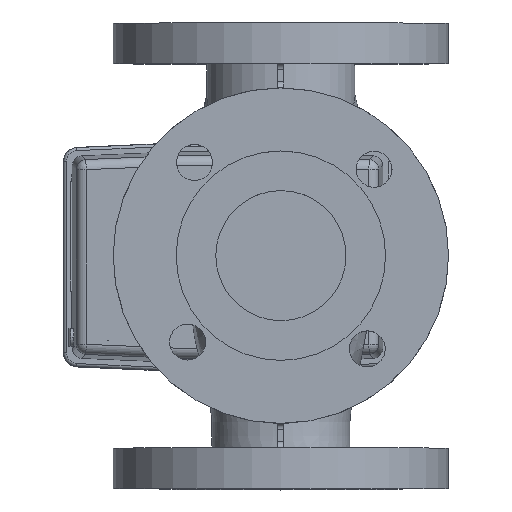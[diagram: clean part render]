
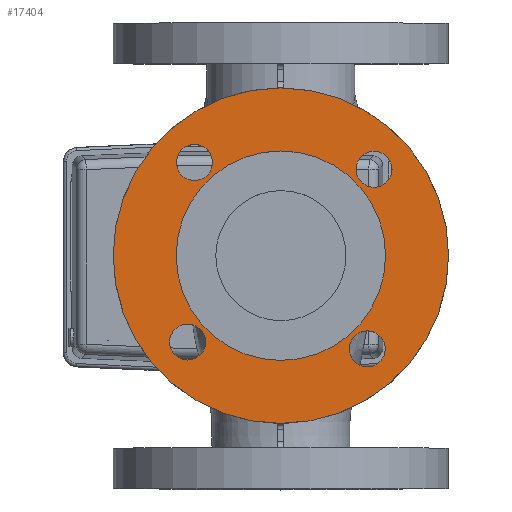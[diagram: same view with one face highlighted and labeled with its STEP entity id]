
A CAD part, top view. The second image highlights one B-rep face of the part: STEP entity #17404.
In plain terms, the highlighted planar face has unit normal (0, 0, 1).
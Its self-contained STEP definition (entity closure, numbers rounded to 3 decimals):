
#287 = CARTESIAN_POINT ( 'NONE',  ( -50.577, 45.897, 317.5 ) ) ;
#318 = DIRECTION ( 'NONE',  ( 0., 0., -1. ) ) ;
#381 = CARTESIAN_POINT ( 'NONE',  ( -41.727, 45.897, 317.5 ) ) ;
#534 = DIRECTION ( 'NONE',  ( 0., 0., -1. ) ) ;
#591 = DIRECTION ( 'NONE',  ( 1., 0., 0. ) ) ;
#693 = EDGE_CURVE ( 'NONE', #9374, #11646, #11549, .T. ) ;
#796 = CARTESIAN_POINT ( 'NONE',  ( -32.877, 45.897, 317.5 ) ) ;
#1407 = CARTESIAN_POINT ( 'NONE',  ( 43.238, -45.787, 317.5 ) ) ;
#1482 = DIRECTION ( 'NONE',  ( 0., 0., -1. ) ) ;
#1691 = AXIS2_PLACEMENT_3D ( 'NONE', #19468, #9903, #16004 ) ;
#1869 = AXIS2_PLACEMENT_3D ( 'NONE', #3132, #17171, #14110 ) ;
#2393 = CARTESIAN_POINT ( 'NONE',  ( -36.237, -42.428, 317.5 ) ) ;
#2857 = AXIS2_PLACEMENT_3D ( 'NONE', #12699, #318, #11467 ) ;
#2943 = ORIENTED_EDGE ( 'NONE', *, *, #8689, .T. ) ;
#3132 = CARTESIAN_POINT ( 'NONE',  ( 46.597, 42.537, 317.5 ) ) ;
#3397 = VERTEX_POINT ( 'NONE', #16111 ) ;
#3408 = CARTESIAN_POINT ( 'NONE',  ( 52.088, -45.787, 317.5 ) ) ;
#3452 = FACE_BOUND ( 'NONE', #9740, .T. ) ;
#3480 = CARTESIAN_POINT ( 'NONE',  ( 55.447, 42.537, 317.5 ) ) ;
#3554 = FACE_BOUND ( 'NONE', #18639, .T. ) ;
#3693 = DIRECTION ( 'NONE',  ( 0., 0., -1. ) ) ;
#3898 = ORIENTED_EDGE ( 'NONE', *, *, #14528, .T. ) ;
#3998 = ORIENTED_EDGE ( 'NONE', *, *, #11959, .F. ) ;
#4054 = CARTESIAN_POINT ( 'NONE',  ( 83.255, 0.055, 317.5 ) ) ;
#4139 = CIRCLE ( 'NONE', #14851, 51.5 ) ;
#4223 = ORIENTED_EDGE ( 'NONE', *, *, #693, .T. ) ;
#4298 = CIRCLE ( 'NONE', #15674, 8.85 ) ;
#4334 = VERTEX_POINT ( 'NONE', #7185 ) ;
#4414 = DIRECTION ( 'NONE',  ( 1., 0., 0. ) ) ;
#4616 = AXIS2_PLACEMENT_3D ( 'NONE', #13272, #8204, #591 ) ;
#4835 = CIRCLE ( 'NONE', #5159, 51.5 ) ;
#4957 = CIRCLE ( 'NONE', #4616, 82.5 ) ;
#5010 = DIRECTION ( 'NONE',  ( 1., 0., 0. ) ) ;
#5159 = AXIS2_PLACEMENT_3D ( 'NONE', #12191, #13700, #9039 ) ;
#5248 = ORIENTED_EDGE ( 'NONE', *, *, #10914, .T. ) ;
#5884 = CARTESIAN_POINT ( 'NONE',  ( 34.388, -45.787, 317.5 ) ) ;
#6209 = EDGE_LOOP ( 'NONE', ( #9402, #5248 ) ) ;
#6278 = DIRECTION ( 'NONE',  ( 0., 0., -1. ) ) ;
#6528 = CARTESIAN_POINT ( 'NONE',  ( 46.597, 42.537, 317.5 ) ) ;
#6539 = CARTESIAN_POINT ( 'NONE',  ( -53.937, -42.428, 317.5 ) ) ;
#6805 = CARTESIAN_POINT ( 'NONE',  ( -45.087, -42.428, 317.5 ) ) ;
#6973 = EDGE_CURVE ( 'NONE', #19956, #16802, #17675, .T. ) ;
#7165 = DIRECTION ( 'NONE',  ( 0., 0., -1. ) ) ;
#7185 = CARTESIAN_POINT ( 'NONE',  ( 37.747, 42.537, 317.5 ) ) ;
#7216 = EDGE_LOOP ( 'NONE', ( #12063, #3998 ) ) ;
#7226 = VERTEX_POINT ( 'NONE', #14205 ) ;
#7456 = EDGE_CURVE ( 'NONE', #3397, #17408, #4957, .T. ) ;
#7660 = DIRECTION ( 'NONE',  ( 0., 0., -1. ) ) ;
#8028 = CIRCLE ( 'NONE', #19391, 8.85 ) ;
#8204 = DIRECTION ( 'NONE',  ( 0., 0., -1. ) ) ;
#8244 = PLANE ( 'NONE',  #14547 ) ;
#8420 = EDGE_CURVE ( 'NONE', #11646, #9374, #4298, .T. ) ;
#8600 = CIRCLE ( 'NONE', #11222, 8.85 ) ;
#8615 = EDGE_LOOP ( 'NONE', ( #4223, #11957 ) ) ;
#8689 = EDGE_CURVE ( 'NONE', #15904, #11228, #11464, .T. ) ;
#8983 = CIRCLE ( 'NONE', #20038, 82.5 ) ;
#9039 = DIRECTION ( 'NONE',  ( 1., 0., 0. ) ) ;
#9203 = CARTESIAN_POINT ( 'NONE',  ( 43.238, -45.787, 317.5 ) ) ;
#9374 = VERTEX_POINT ( 'NONE', #5884 ) ;
#9402 = ORIENTED_EDGE ( 'NONE', *, *, #18799, .T. ) ;
#9561 = AXIS2_PLACEMENT_3D ( 'NONE', #6805, #9851, #13197 ) ;
#9740 = EDGE_LOOP ( 'NONE', ( #17803, #12140 ) ) ;
#9770 = FACE_BOUND ( 'NONE', #8615, .T. ) ;
#9851 = DIRECTION ( 'NONE',  ( 0., 0., -1. ) ) ;
#9903 = DIRECTION ( 'NONE',  ( 0., 0., -1. ) ) ;
#10707 = EDGE_CURVE ( 'NONE', #7226, #14920, #4835, .T. ) ;
#10762 = DIRECTION ( 'NONE',  ( 1., 0., 0. ) ) ;
#10859 = EDGE_LOOP ( 'NONE', ( #20014, #18811 ) ) ;
#10914 = EDGE_CURVE ( 'NONE', #16833, #4334, #18421, .T. ) ;
#11222 = AXIS2_PLACEMENT_3D ( 'NONE', #6528, #18948, #5010 ) ;
#11228 = VERTEX_POINT ( 'NONE', #796 ) ;
#11256 = DIRECTION ( 'NONE',  ( 1., 0., 0. ) ) ;
#11464 = CIRCLE ( 'NONE', #1691, 8.85 ) ;
#11467 = DIRECTION ( 'NONE',  ( 1., 0., 0. ) ) ;
#11549 = CIRCLE ( 'NONE', #16095, 8.85 ) ;
#11646 = VERTEX_POINT ( 'NONE', #3408 ) ;
#11957 = ORIENTED_EDGE ( 'NONE', *, *, #8420, .T. ) ;
#11959 = EDGE_CURVE ( 'NONE', #17408, #3397, #8983, .T. ) ;
#12063 = ORIENTED_EDGE ( 'NONE', *, *, #7456, .F. ) ;
#12140 = ORIENTED_EDGE ( 'NONE', *, *, #10707, .T. ) ;
#12191 = CARTESIAN_POINT ( 'NONE',  ( 0.755, 0.055, 317.5 ) ) ;
#12699 = CARTESIAN_POINT ( 'NONE',  ( -45.087, -42.428, 317.5 ) ) ;
#12716 = FACE_BOUND ( 'NONE', #10859, .T. ) ;
#12818 = FACE_OUTER_BOUND ( 'NONE', #7216, .T. ) ;
#12912 = DIRECTION ( 'NONE',  ( -1., 0., 0. ) ) ;
#12939 = CIRCLE ( 'NONE', #2857, 8.85 ) ;
#13197 = DIRECTION ( 'NONE',  ( 1., 0., 0. ) ) ;
#13272 = CARTESIAN_POINT ( 'NONE',  ( 0.755, 0.055, 317.5 ) ) ;
#13700 = DIRECTION ( 'NONE',  ( 0., 0., -1. ) ) ;
#13851 = DIRECTION ( 'NONE',  ( 1., 0., 0. ) ) ;
#13869 = DIRECTION ( 'NONE',  ( 1., 0., 0. ) ) ;
#14110 = DIRECTION ( 'NONE',  ( 1., 0., 0. ) ) ;
#14205 = CARTESIAN_POINT ( 'NONE',  ( -50.745, 0.055, 317.5 ) ) ;
#14436 = CARTESIAN_POINT ( 'NONE',  ( -65.429, 10.439, 317.5 ) ) ;
#14528 = EDGE_CURVE ( 'NONE', #11228, #15904, #8028, .T. ) ;
#14547 = AXIS2_PLACEMENT_3D ( 'NONE', #14436, #534, #12912 ) ;
#14851 = AXIS2_PLACEMENT_3D ( 'NONE', #17319, #7660, #13851 ) ;
#14920 = VERTEX_POINT ( 'NONE', #15489 ) ;
#15489 = CARTESIAN_POINT ( 'NONE',  ( 52.255, 0.055, 317.5 ) ) ;
#15674 = AXIS2_PLACEMENT_3D ( 'NONE', #9203, #1482, #13869 ) ;
#15904 = VERTEX_POINT ( 'NONE', #287 ) ;
#16004 = DIRECTION ( 'NONE',  ( 1., 0., 0. ) ) ;
#16095 = AXIS2_PLACEMENT_3D ( 'NONE', #1407, #6278, #10762 ) ;
#16111 = CARTESIAN_POINT ( 'NONE',  ( -81.745, 0.055, 317.5 ) ) ;
#16519 = CARTESIAN_POINT ( 'NONE',  ( 0.755, 0.055, 317.5 ) ) ;
#16526 = EDGE_CURVE ( 'NONE', #14920, #7226, #4139, .T. ) ;
#16802 = VERTEX_POINT ( 'NONE', #6539 ) ;
#16833 = VERTEX_POINT ( 'NONE', #3480 ) ;
#17171 = DIRECTION ( 'NONE',  ( 0., 0., -1. ) ) ;
#17319 = CARTESIAN_POINT ( 'NONE',  ( 0.755, 0.055, 317.5 ) ) ;
#17397 = FACE_BOUND ( 'NONE', #6209, .T. ) ;
#17404 = ADVANCED_FACE ( 'NONE', ( #3554, #12716, #9770, #17397, #3452, #12818 ), #8244, .F. ) ;
#17408 = VERTEX_POINT ( 'NONE', #4054 ) ;
#17675 = CIRCLE ( 'NONE', #9561, 8.85 ) ;
#17768 = EDGE_CURVE ( 'NONE', #16802, #19956, #12939, .T. ) ;
#17803 = ORIENTED_EDGE ( 'NONE', *, *, #16526, .T. ) ;
#18421 = CIRCLE ( 'NONE', #1869, 8.85 ) ;
#18639 = EDGE_LOOP ( 'NONE', ( #2943, #3898 ) ) ;
#18799 = EDGE_CURVE ( 'NONE', #4334, #16833, #8600, .T. ) ;
#18811 = ORIENTED_EDGE ( 'NONE', *, *, #6973, .T. ) ;
#18948 = DIRECTION ( 'NONE',  ( 0., 0., -1. ) ) ;
#19391 = AXIS2_PLACEMENT_3D ( 'NONE', #381, #3693, #11256 ) ;
#19468 = CARTESIAN_POINT ( 'NONE',  ( -41.727, 45.897, 317.5 ) ) ;
#19956 = VERTEX_POINT ( 'NONE', #2393 ) ;
#20014 = ORIENTED_EDGE ( 'NONE', *, *, #17768, .T. ) ;
#20038 = AXIS2_PLACEMENT_3D ( 'NONE', #16519, #7165, #4414 ) ;
